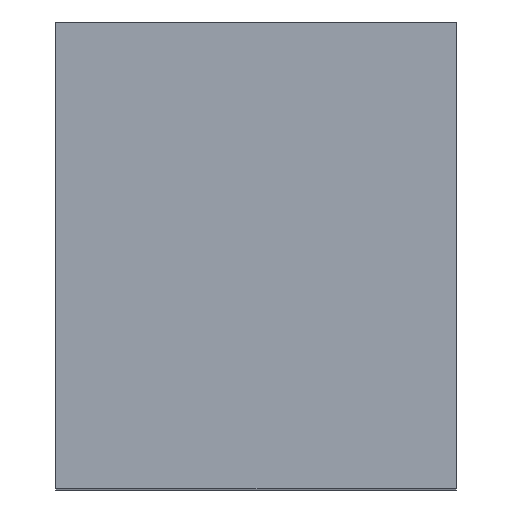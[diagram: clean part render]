
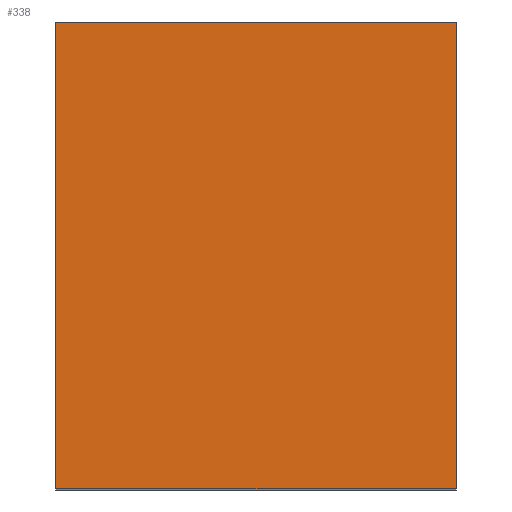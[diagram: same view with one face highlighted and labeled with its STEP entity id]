
A CAD part, top view. The second image highlights one B-rep face of the part: STEP entity #338.
In plain terms, the highlighted planar face has unit normal (0, 0, 1).
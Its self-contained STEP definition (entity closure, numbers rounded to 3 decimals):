
#24 = VERTEX_POINT('',#25);
#25 = CARTESIAN_POINT('',(-142.,-171.913,36.));
#32 = PLANE('',#33);
#33 = AXIS2_PLACEMENT_3D('',#34,#35,#36);
#34 = CARTESIAN_POINT('',(-142.,-171.913,18.));
#35 = DIRECTION('',(1.,0.,-0.));
#36 = DIRECTION('',(0.,0.,1.));
#44 = PLANE('',#45);
#45 = AXIS2_PLACEMENT_3D('',#46,#47,#48);
#46 = CARTESIAN_POINT('',(-142.,-171.913,18.));
#47 = DIRECTION('',(-0.,1.,0.));
#48 = DIRECTION('',(0.,0.,1.));
#85 = VERTEX_POINT('',#86);
#86 = CARTESIAN_POINT('',(-142.,-157.913,36.));
#100 = PLANE('',#101);
#101 = AXIS2_PLACEMENT_3D('',#102,#103,#104);
#102 = CARTESIAN_POINT('',(-142.,-157.913,18.));
#103 = DIRECTION('',(-0.,1.,0.));
#104 = DIRECTION('',(0.,0.,1.));
#112 = EDGE_CURVE('',#24,#85,#113,.T.);
#113 = SURFACE_CURVE('',#114,(#118,#125),.PCURVE_S1.);
#114 = LINE('',#115,#116);
#115 = CARTESIAN_POINT('',(-142.,-171.913,36.));
#116 = VECTOR('',#117,1.);
#117 = DIRECTION('',(-0.,1.,0.));
#118 = PCURVE('',#32,#119);
#119 = DEFINITIONAL_REPRESENTATION('',(#120),#124);
#120 = LINE('',#121,#122);
#121 = CARTESIAN_POINT('',(18.,0.));
#122 = VECTOR('',#123,1.);
#123 = DIRECTION('',(0.,-1.));
#124 = ( GEOMETRIC_REPRESENTATION_CONTEXT(2) 
PARAMETRIC_REPRESENTATION_CONTEXT() REPRESENTATION_CONTEXT('2D SPACE',''
  ) );
#125 = PCURVE('',#126,#131);
#126 = PLANE('',#127);
#127 = AXIS2_PLACEMENT_3D('',#128,#129,#130);
#128 = CARTESIAN_POINT('',(-142.,-171.913,36.));
#129 = DIRECTION('',(0.,0.,1.));
#130 = DIRECTION('',(1.,0.,-0.));
#131 = DEFINITIONAL_REPRESENTATION('',(#132),#136);
#132 = LINE('',#133,#134);
#133 = CARTESIAN_POINT('',(0.,0.));
#134 = VECTOR('',#135,1.);
#135 = DIRECTION('',(0.,1.));
#136 = ( GEOMETRIC_REPRESENTATION_CONTEXT(2) 
PARAMETRIC_REPRESENTATION_CONTEXT() REPRESENTATION_CONTEXT('2D SPACE',''
  ) );
#144 = VERTEX_POINT('',#145);
#145 = CARTESIAN_POINT('',(-130.,-171.913,36.));
#152 = PLANE('',#153);
#153 = AXIS2_PLACEMENT_3D('',#154,#155,#156);
#154 = CARTESIAN_POINT('',(-130.,-171.913,18.));
#155 = DIRECTION('',(1.,0.,-0.));
#156 = DIRECTION('',(0.,0.,1.));
#195 = VERTEX_POINT('',#196);
#196 = CARTESIAN_POINT('',(-130.,-157.913,36.));
#217 = EDGE_CURVE('',#144,#195,#218,.T.);
#218 = SURFACE_CURVE('',#219,(#223,#230),.PCURVE_S1.);
#219 = LINE('',#220,#221);
#220 = CARTESIAN_POINT('',(-130.,-171.913,36.));
#221 = VECTOR('',#222,1.);
#222 = DIRECTION('',(-0.,1.,0.));
#223 = PCURVE('',#152,#224);
#224 = DEFINITIONAL_REPRESENTATION('',(#225),#229);
#225 = LINE('',#226,#227);
#226 = CARTESIAN_POINT('',(18.,0.));
#227 = VECTOR('',#228,1.);
#228 = DIRECTION('',(0.,-1.));
#229 = ( GEOMETRIC_REPRESENTATION_CONTEXT(2) 
PARAMETRIC_REPRESENTATION_CONTEXT() REPRESENTATION_CONTEXT('2D SPACE',''
  ) );
#230 = PCURVE('',#126,#231);
#231 = DEFINITIONAL_REPRESENTATION('',(#232),#236);
#232 = LINE('',#233,#234);
#233 = CARTESIAN_POINT('',(12.,0.));
#234 = VECTOR('',#235,1.);
#235 = DIRECTION('',(0.,1.));
#236 = ( GEOMETRIC_REPRESENTATION_CONTEXT(2) 
PARAMETRIC_REPRESENTATION_CONTEXT() REPRESENTATION_CONTEXT('2D SPACE',''
  ) );
#263 = EDGE_CURVE('',#24,#144,#264,.T.);
#264 = SURFACE_CURVE('',#265,(#269,#276),.PCURVE_S1.);
#265 = LINE('',#266,#267);
#266 = CARTESIAN_POINT('',(-142.,-171.913,36.));
#267 = VECTOR('',#268,1.);
#268 = DIRECTION('',(1.,0.,-0.));
#269 = PCURVE('',#44,#270);
#270 = DEFINITIONAL_REPRESENTATION('',(#271),#275);
#271 = LINE('',#272,#273);
#272 = CARTESIAN_POINT('',(18.,0.));
#273 = VECTOR('',#274,1.);
#274 = DIRECTION('',(0.,1.));
#275 = ( GEOMETRIC_REPRESENTATION_CONTEXT(2) 
PARAMETRIC_REPRESENTATION_CONTEXT() REPRESENTATION_CONTEXT('2D SPACE',''
  ) );
#276 = PCURVE('',#126,#277);
#277 = DEFINITIONAL_REPRESENTATION('',(#278),#282);
#278 = LINE('',#279,#280);
#279 = CARTESIAN_POINT('',(0.,0.));
#280 = VECTOR('',#281,1.);
#281 = DIRECTION('',(1.,0.));
#282 = ( GEOMETRIC_REPRESENTATION_CONTEXT(2) 
PARAMETRIC_REPRESENTATION_CONTEXT() REPRESENTATION_CONTEXT('2D SPACE',''
  ) );
#310 = EDGE_CURVE('',#85,#195,#311,.T.);
#311 = SURFACE_CURVE('',#312,(#316,#323),.PCURVE_S1.);
#312 = LINE('',#313,#314);
#313 = CARTESIAN_POINT('',(-142.,-157.913,36.));
#314 = VECTOR('',#315,1.);
#315 = DIRECTION('',(1.,0.,-0.));
#316 = PCURVE('',#100,#317);
#317 = DEFINITIONAL_REPRESENTATION('',(#318),#322);
#318 = LINE('',#319,#320);
#319 = CARTESIAN_POINT('',(18.,0.));
#320 = VECTOR('',#321,1.);
#321 = DIRECTION('',(0.,1.));
#322 = ( GEOMETRIC_REPRESENTATION_CONTEXT(2) 
PARAMETRIC_REPRESENTATION_CONTEXT() REPRESENTATION_CONTEXT('2D SPACE',''
  ) );
#323 = PCURVE('',#126,#324);
#324 = DEFINITIONAL_REPRESENTATION('',(#325),#329);
#325 = LINE('',#326,#327);
#326 = CARTESIAN_POINT('',(0.,14.));
#327 = VECTOR('',#328,1.);
#328 = DIRECTION('',(1.,0.));
#329 = ( GEOMETRIC_REPRESENTATION_CONTEXT(2) 
PARAMETRIC_REPRESENTATION_CONTEXT() REPRESENTATION_CONTEXT('2D SPACE',''
  ) );
#338 = ADVANCED_FACE('',(#339),#126,.T.);
#339 = FACE_BOUND('',#340,.T.);
#340 = EDGE_LOOP('',(#341,#342,#343,#344));
#341 = ORIENTED_EDGE('',*,*,#112,.F.);
#342 = ORIENTED_EDGE('',*,*,#263,.T.);
#343 = ORIENTED_EDGE('',*,*,#217,.T.);
#344 = ORIENTED_EDGE('',*,*,#310,.F.);
